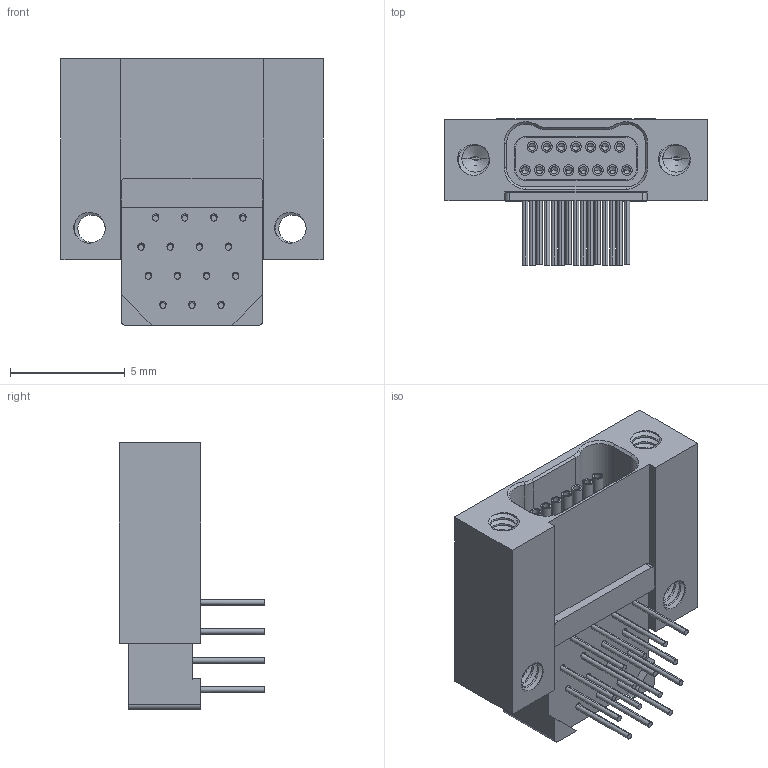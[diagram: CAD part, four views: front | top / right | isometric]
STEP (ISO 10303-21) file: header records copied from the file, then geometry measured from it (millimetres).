
FILE_DESCRIPTION (( 'STEP AP214' ), '1' );
FILE_NAME ('A29400-015 REV N.STEP', '2015-11-05T12:54:53', ( '' ), ( '' ), 'SwSTEP 2.0', 'SolidWorks 2015', '' );
FILE_SCHEMA (( 'AUTOMOTIVE_DESIGN' ));
Length unit declared in the file: inch
Products named in the file (1): A29400-015
Bounding box: 11.43 x 6.36 x 11.63 mm (x, y, z)
Volume: 314.8 mm3; surface area: 750.6 mm2
Topology: 1 solids, 1 shells, 548 faces, 1492 edges, 958 vertices
Faces by surface type: cylinder 216, plane 200, cone 70, bspline 62
Entity records: 28391 total; most frequent: CARTESIAN_POINT 14302, ORIENTED_EDGE 2920, DIRECTION 2463, EDGE_CURVE 1460, VERTEX_POINT 958, AXIS2_PLACEMENT_3D 847, VECTOR 769, LINE 769
